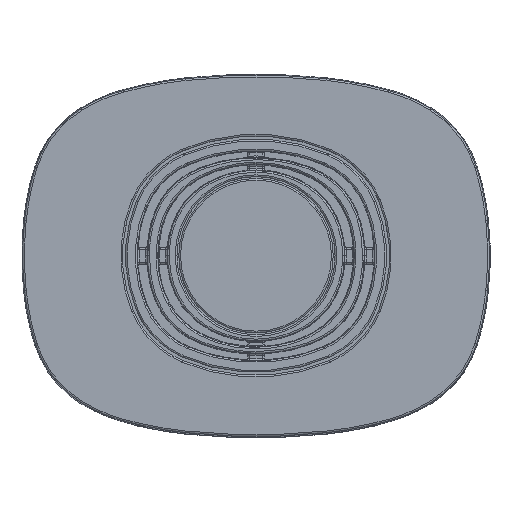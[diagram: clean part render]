
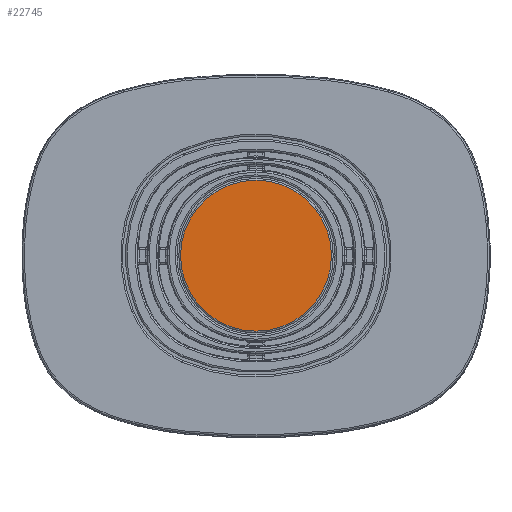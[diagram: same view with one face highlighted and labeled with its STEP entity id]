
A CAD part, top view. The second image highlights one B-rep face of the part: STEP entity #22745.
In plain terms, the highlighted planar face has unit normal (0, 0, 1).
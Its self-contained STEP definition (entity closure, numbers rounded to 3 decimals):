
#1803=PLANE('',#24715);
#6870=ORIENTED_EDGE('',*,*,#12999,.T.);
#12999=EDGE_CURVE('',#16172,#16172,#18075,.T.);
#16172=VERTEX_POINT('',#38401);
#18075=CIRCLE('',#24716,86.2);
#19408=EDGE_LOOP('',(#6870));
#20908=FACE_BOUND('',#19408,.T.);
#22745=ADVANCED_FACE('',(#20908),#1803,.T.);
#24715=AXIS2_PLACEMENT_3D('',#38399,#28453,#28454);
#24716=AXIS2_PLACEMENT_3D('',#38400,#28455,#28456);
#28453=DIRECTION('',(0.,0.,1.));
#28454=DIRECTION('',(1.,0.,0.));
#28455=DIRECTION('',(0.,0.,1.));
#28456=DIRECTION('',(1.,0.,0.));
#38399=CARTESIAN_POINT('',(-14.985,123.28,859.51));
#38400=CARTESIAN_POINT('',(0.,135.025,859.51));
#38401=CARTESIAN_POINT('',(86.2,135.025,859.51));
